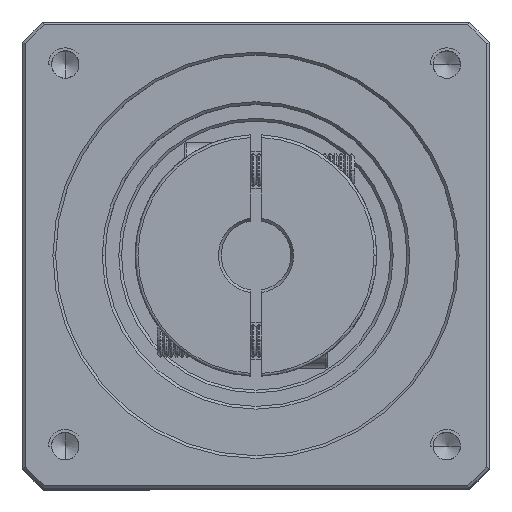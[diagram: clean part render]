
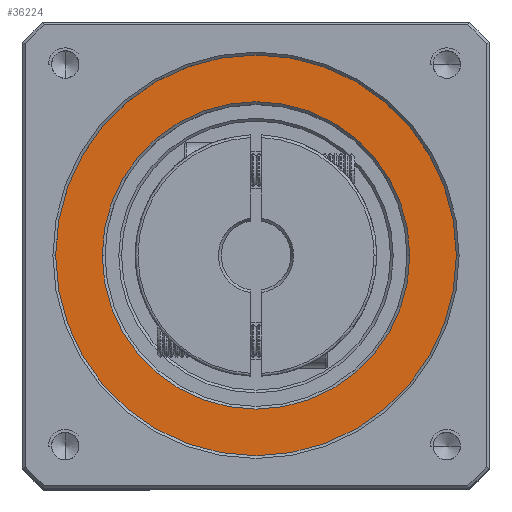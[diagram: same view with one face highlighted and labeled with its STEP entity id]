
A CAD part, top view. The second image highlights one B-rep face of the part: STEP entity #36224.
In plain terms, the highlighted planar face has unit normal (0, 0, 1).
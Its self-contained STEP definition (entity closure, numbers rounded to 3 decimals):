
#2540 = EDGE_LOOP ( 'NONE', ( #88908, #63102 ) ) ;
#2946 = AXIS2_PLACEMENT_3D ( 'NONE', #112483, #13238, #102929 ) ;
#4334 = CARTESIAN_POINT ( 'NONE',  ( -34.658, 1.512, 180. ) ) ;
#8776 = CIRCLE ( 'NONE', #41248, 36.5 ) ;
#13238 = DIRECTION ( 'NONE',  ( 0., 0., 1. ) ) ;
#14153 = VERTEX_POINT ( 'NONE', #21293 ) ;
#14497 = EDGE_CURVE ( 'NONE', #125129, #84691, #83685, .T. ) ;
#21293 = CARTESIAN_POINT ( 'NONE',  ( -71.158, 1.512, 180. ) ) ;
#23003 = FACE_OUTER_BOUND ( 'NONE', #2540, .T. ) ;
#28590 = CARTESIAN_POINT ( 'NONE',  ( -34.658, 1.512, 180. ) ) ;
#29325 = EDGE_LOOP ( 'NONE', ( #99012, #83867 ) ) ;
#36224 = ADVANCED_FACE ( 'NONE', ( #23003, #51144 ), #112203, .T. ) ;
#41248 = AXIS2_PLACEMENT_3D ( 'NONE', #28590, #97725, #58586 ) ;
#51144 = FACE_BOUND ( 'NONE', #29325, .T. ) ;
#54773 = DIRECTION ( 'NONE',  ( 1., 0., 0. ) ) ;
#55604 = CARTESIAN_POINT ( 'NONE',  ( -62.658, 1.512, 180. ) ) ;
#58586 = DIRECTION ( 'NONE',  ( 1., 0., 0. ) ) ;
#62836 = EDGE_CURVE ( 'NONE', #84691, #125129, #73085, .T. ) ;
#63102 = ORIENTED_EDGE ( 'NONE', *, *, #82655, .T. ) ;
#66601 = AXIS2_PLACEMENT_3D ( 'NONE', #85630, #114730, #54773 ) ;
#73085 = CIRCLE ( 'NONE', #121202, 28. ) ;
#82655 = EDGE_CURVE ( 'NONE', #14153, #118435, #8776, .T. ) ;
#83685 = CIRCLE ( 'NONE', #110411, 28. ) ;
#83867 = ORIENTED_EDGE ( 'NONE', *, *, #14497, .T. ) ;
#84691 = VERTEX_POINT ( 'NONE', #124231 ) ;
#85630 = CARTESIAN_POINT ( 'NONE',  ( -34.658, 1.512, 180. ) ) ;
#88908 = ORIENTED_EDGE ( 'NONE', *, *, #94602, .T. ) ;
#89179 = CIRCLE ( 'NONE', #2946, 36.5 ) ;
#94602 = EDGE_CURVE ( 'NONE', #118435, #14153, #89179, .T. ) ;
#94868 = DIRECTION ( 'NONE',  ( 0., 0., -1. ) ) ;
#97725 = DIRECTION ( 'NONE',  ( 0., 0., 1. ) ) ;
#99012 = ORIENTED_EDGE ( 'NONE', *, *, #62836, .T. ) ;
#102929 = DIRECTION ( 'NONE',  ( 1., 0., 0. ) ) ;
#105767 = CARTESIAN_POINT ( 'NONE',  ( 1.842, 1.512, 180. ) ) ;
#110411 = AXIS2_PLACEMENT_3D ( 'NONE', #116467, #115633, #116901 ) ;
#112203 = PLANE ( 'NONE',  #66601 ) ;
#112483 = CARTESIAN_POINT ( 'NONE',  ( -34.658, 1.512, 180. ) ) ;
#114730 = DIRECTION ( 'NONE',  ( 0., 0., 1. ) ) ;
#115633 = DIRECTION ( 'NONE',  ( 0., 0., -1. ) ) ;
#116467 = CARTESIAN_POINT ( 'NONE',  ( -34.658, 1.512, 180. ) ) ;
#116901 = DIRECTION ( 'NONE',  ( 1., 0., 0. ) ) ;
#118435 = VERTEX_POINT ( 'NONE', #105767 ) ;
#121202 = AXIS2_PLACEMENT_3D ( 'NONE', #4334, #94868, #123090 ) ;
#123090 = DIRECTION ( 'NONE',  ( 1., 0., 0. ) ) ;
#124231 = CARTESIAN_POINT ( 'NONE',  ( -6.658, 1.512, 180. ) ) ;
#125129 = VERTEX_POINT ( 'NONE', #55604 ) ;
